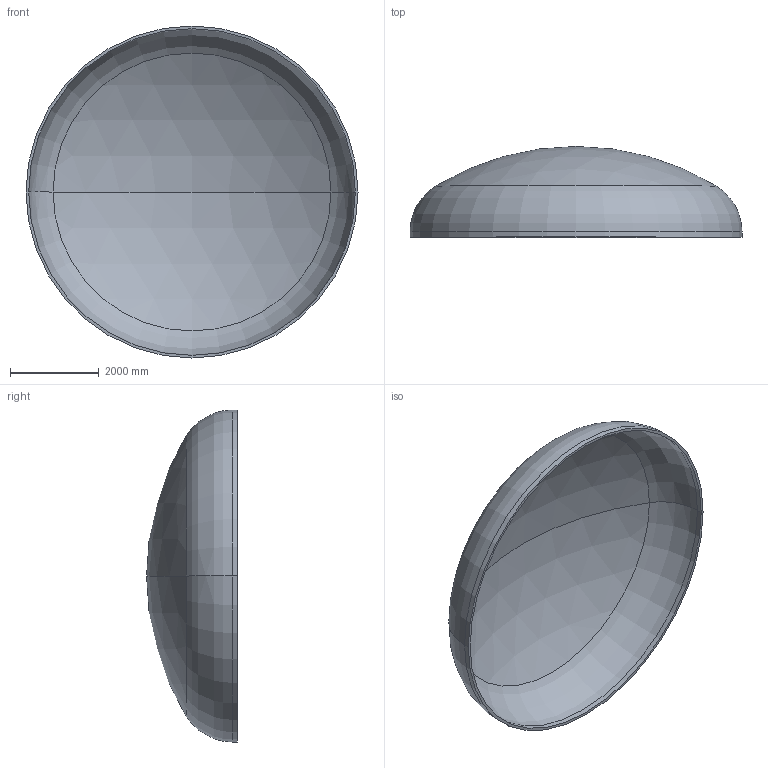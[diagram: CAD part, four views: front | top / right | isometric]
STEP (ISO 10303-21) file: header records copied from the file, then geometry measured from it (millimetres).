
FILE_DESCRIPTION (( 'STEP AP203' ), '1' );
FILE_NAME ('DIN 28013 Korbbogenform_-_Boden DIN 28013 - 7500 x 120 - I - s=60.step', '2016-07-04T10:55:06', ( '' ), ( '' ), 'SwSTEP 2.0', 'SolidWorks 2013', '' );
FILE_SCHEMA (( 'CONFIG_CONTROL_DESIGN' ));
Length unit declared in the file: millimetre
Products named in the file (1): DIN 28013 Korbbogenform_-_Boden DIN 28013 - 7500 x 120 - I - s=60
Bounding box: 7500 x 2051.1 x 7500 mm (x, y, z)
Volume: 3800886405.3 mm3; surface area: 128106110.9 mm2
Topology: 1 solids, 1 shells, 13 faces, 24 edges, 14 vertices
Faces by surface type: torus 4, cylinder 4, sphere 4, plane 1
Entity records: 407 total; most frequent: DIRECTION 72, CARTESIAN_POINT 52, ORIENTED_EDGE 48, AXIS2_PLACEMENT_3D 34, EDGE_CURVE 24, CIRCLE 20, EDGE_LOOP 14, VERTEX_POINT 14
